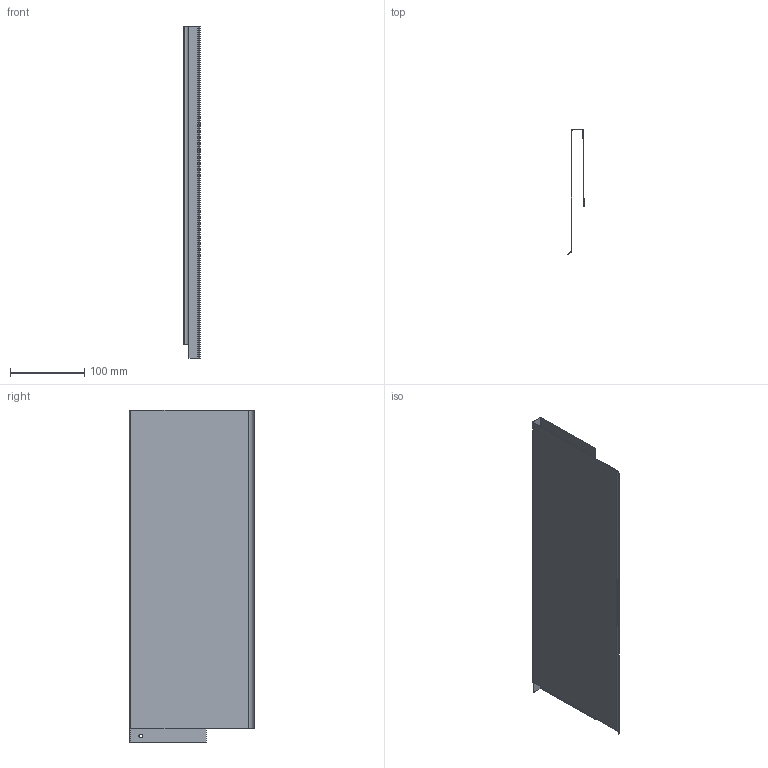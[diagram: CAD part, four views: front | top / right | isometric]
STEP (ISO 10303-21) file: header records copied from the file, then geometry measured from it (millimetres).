
FILE_DESCRIPTION (( 'STEP AP203' ), '1' );
FILE_NAME ('Nova Pro Duowing HRW H186 Deluxe rechts_NL450.step', '2014-02-14T12:19:27', ( 'test' ), ( '' ), 'SwSTEP 2.0', 'SolidWorks 2013', '' );
FILE_SCHEMA (( 'CONFIG_CONTROL_DESIGN' ));
Length unit declared in the file: millimetre
Products named in the file (1): Nova Pro Duowing HRW H186 Deluxe rechts_NL450
Bounding box: 21.82 x 169 x 447.5 mm (x, y, z)
Volume: 62908.5 mm3; surface area: 252377.4 mm2
Topology: 1 solids, 1 shells, 29 faces, 66 edges, 39 vertices
Faces by surface type: plane 20, cylinder 9
Entity records: 876 total; most frequent: CARTESIAN_POINT 147, DIRECTION 137, ORIENTED_EDGE 132, EDGE_CURVE 66, VECTOR 47, LINE 47, AXIS2_PLACEMENT_3D 45, VERTEX_POINT 39
